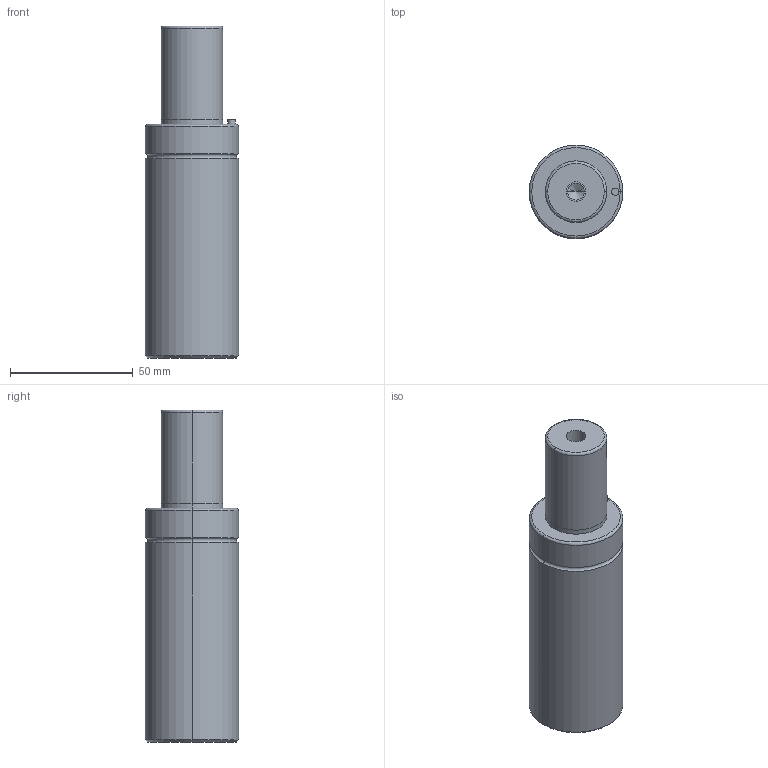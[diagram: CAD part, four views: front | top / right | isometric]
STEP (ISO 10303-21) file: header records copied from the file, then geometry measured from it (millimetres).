
FILE_DESCRIPTION(/* description */ (''),/* implementation_level */ '2;1');
FILE_NAME(/* name */ '3d_gsm38-38_03931_r00.stp',/* time_stamp */ '2011-01-10T14:15:16+09:00',/* author */ ('MISUMI'),/* organization */ (''),/* preprocessor_version */ 'ST-DEVELOPER v11',/* originating_system */ 'UGS - NX 5.0',/* authorisation */ '');
FILE_SCHEMA (('CONFIG_CONTROL_DESIGN'));
Length unit declared in the file: millimetre
Products named in the file (1): 3d_gsm38-38_03931_r00
Bounding box: 38 x 38 x 135 mm (x, y, z)
Volume: 125320.7 mm3; surface area: 17728.2 mm2
Topology: 1 solids, 1 shells, 50 faces, 106 edges, 60 vertices
Faces by surface type: cylinder 26, cone 10, plane 8, torus 6
Entity records: 1382 total; most frequent: DIRECTION 262, CARTESIAN_POINT 209, ORIENTED_EDGE 196, AXIS2_PLACEMENT_3D 113, EDGE_CURVE 98, CIRCLE 62, EDGE_LOOP 60, VERTEX_POINT 60
